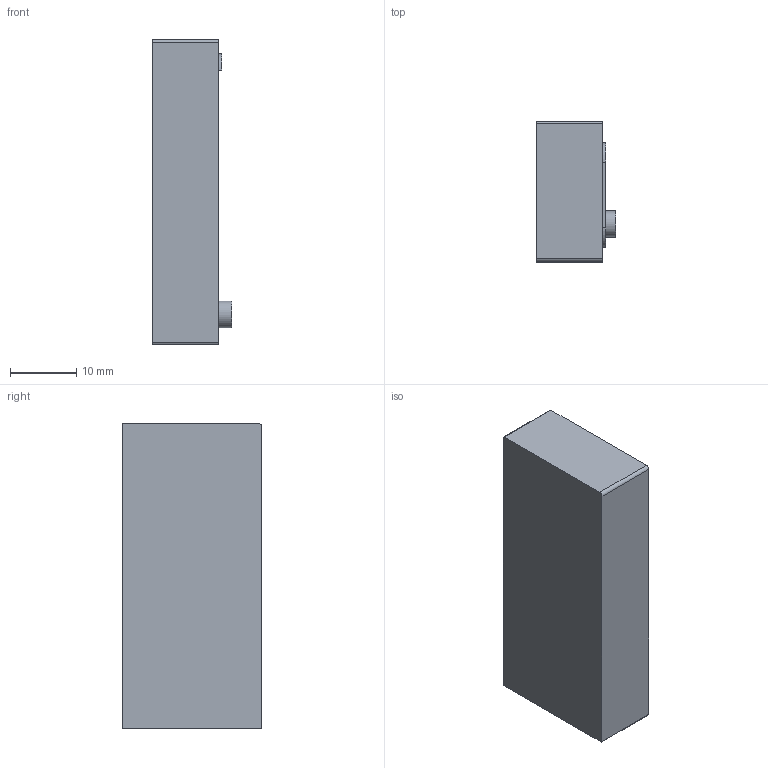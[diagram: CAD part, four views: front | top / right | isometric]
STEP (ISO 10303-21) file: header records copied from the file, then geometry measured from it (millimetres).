
FILE_DESCRIPTION( ( 'STEP AP203' ), '1' );
FILE_NAME( 'E:/1.AUTOCAD EXPORT/4.YEAR 2016/Missing Cad files/115049.stp', ' ', ( ' ' ), ( ' ' ), 'PSStep 15.0.47', 'PARTsolutions', ' ' );
FILE_SCHEMA( ( 'CONFIG_CONTROL_DESIGN' ) );
Length unit declared in the file: millimetre
Products named in the file (1): HI_115049
Bounding box: 12 x 21.1 x 46 mm (x, y, z)
Volume: 9738.7 mm3; surface area: 3321.2 mm2
Topology: 1 solids, 1 shells, 21 faces, 51 edges, 34 vertices
Faces by surface type: plane 12, cylinder 9
Full cylindrical faces by diameter (mm): 4 x1
Entity records: 662 total; most frequent: DIRECTION 112, CARTESIAN_POINT 106, ORIENTED_EDGE 100, EDGE_CURVE 50, AXIS2_PLACEMENT_3D 40, VERTEX_POINT 34, LINE 32, VECTOR 32
